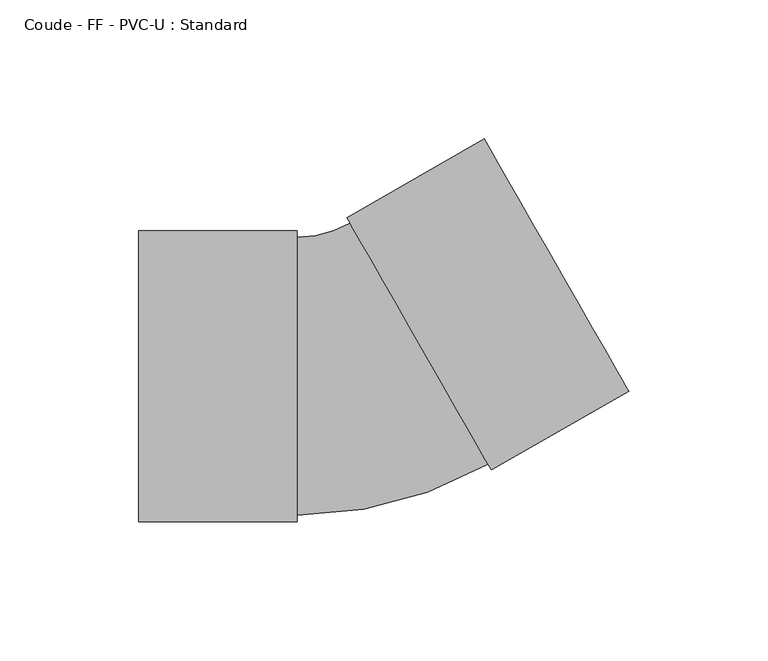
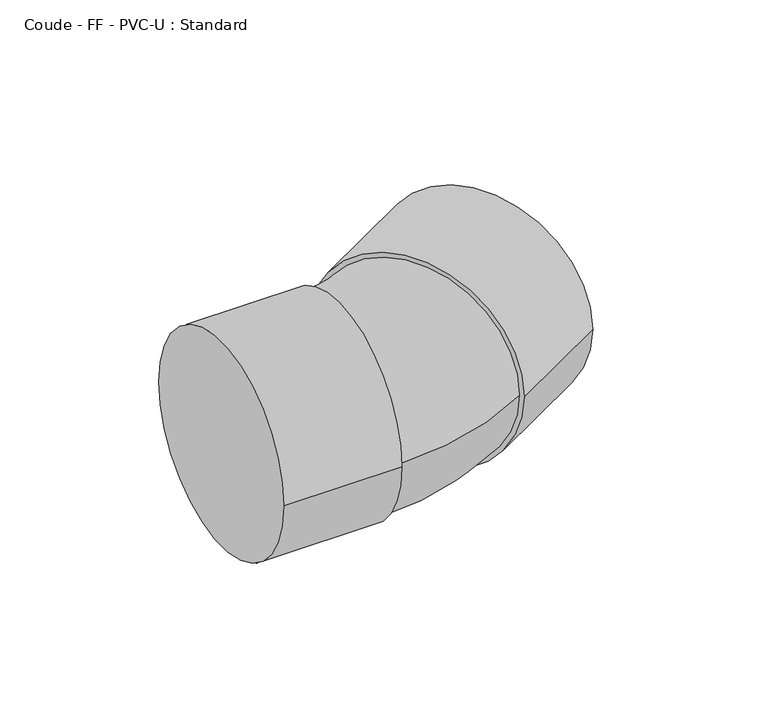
"""IFC4 building model written with IfcOpenShell, lengths in millimetres: pipe fitting geometry, Coude - FF - PVC-U : Standard."""

from ifc_helpers import new_model, si_unit, point, frame, origin, place, context, project, spatial, circle_curve, ellipse_curve, trimmed, source, transform, mapped, element, save
from ifc_brep_helpers import plane_surface, cylinder_surface, revolved_surface, advanced_brep


def coude_ff_pvc_u_standard_b7df5823(model_context):
    return source(origin(), model_context, "Body", "AdvancedBrep", [
        advanced_brep(
        [(-80.5, -52.3, 0.0), (-80.5, 52.3, 0.0), (-23.5, -52.3, 0.0), (-23.5, 52.3, 0.0), (-23.5, -50.0, 0.0), (-23.5, 50.0, 0.0), (-4.4553988, 55.0672264, 0.0), (45.2407191, -31.7100509, 0.0), (46.3837299, -33.7059283, 0.0), (-5.5984095, 57.0631038, 0.0), (95.8467779, -5.3791411, 0.0), (43.8646386, 85.389891, 0.0)],
        [
            (0, 1, circle_curve(frame((-80.5, 0.0, 0.0), z_axis=(-1.0, 0.0, 0.0), x_axis=(0.0, 1.0, 0.0)), 52.3)),
            (1, 0, circle_curve(frame((-80.5, 0.0, 0.0), z_axis=(-1.0, 0.0, 0.0), x_axis=(0.0, 1.0, 0.0)), 52.3)),
            (2, 3, circle_curve(frame((-23.5, 0.0, 0.0), z_axis=(1.0, 0.0, 0.0), x_axis=(0.0, 1.0, 0.0)), 52.3)),
            (3, 2, circle_curve(frame((-23.5, 0.0, 0.0), z_axis=(1.0, 0.0, 0.0), x_axis=(0.0, 1.0, 0.0)), 52.3)),
            (4, 5, circle_curve(frame((-23.5, 0.0, 0.0), z_axis=(-1.0, 0.0, 0.0), x_axis=(0.0, 1.0, 0.0)), 50.0)),
            (5, 4, circle_curve(frame((-23.5, 0.0, 0.0), z_axis=(-1.0, 0.0, 0.0), x_axis=(0.0, 1.0, 0.0)), 50.0)),
            (0, 2),
            (3, 1),
            (6, 5, circle_curve(frame((-23.5, 88.3221104, 0.0), z_axis=(0.0, 0.0, -1.0), x_axis=(0.0, -1.0, 0.0)), 38.3221104)),
            (4, 7, circle_curve(frame((-23.5, 88.3221104, 0.0), z_axis=(0.0, 0.0, 1.0), x_axis=(0.0, -1.0, 0.0)), 138.3221104)),
            (7, 6, circle_curve(frame((20.3926602, 11.6785877, 0.0), z_axis=(-0.8677727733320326, -0.49696117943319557, 0.0), x_axis=(-0.49696117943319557, 0.8677727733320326, 0.0)), 50.0)),
            (6, 7, circle_curve(frame((20.3926602, 11.6785877, 0.0), z_axis=(-0.8677727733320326, -0.49696117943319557, 0.0), x_axis=(-0.49696117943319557, 0.8677727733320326, 0.0)), 50.0)),
            (8, 9, circle_curve(frame((20.3926602, 11.6785877, 0.0), z_axis=(-0.8677727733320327, -0.49696117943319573, 0.0), x_axis=(-0.4969611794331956, 0.8677727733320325, 0.0)), 52.3)),
            (9, 8, circle_curve(frame((20.3926602, 11.6785877, 0.0), z_axis=(-0.8677727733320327, -0.49696117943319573, 0.0), x_axis=(-0.4969611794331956, 0.8677727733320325, 0.0)), 52.3)),
            (10, 11, circle_curve(frame((69.8557083, 40.0053749, 0.0), z_axis=(0.8677727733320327, 0.49696117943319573, 0.0), x_axis=(-0.4969611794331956, 0.8677727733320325, 0.0)), 52.3)),
            (11, 10, circle_curve(frame((69.8557083, 40.0053749, 0.0), z_axis=(0.8677727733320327, 0.49696117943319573, 0.0), x_axis=(-0.4969611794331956, 0.8677727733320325, 0.0)), 52.3)),
            (8, 10),
            (11, 9),
        ],
        [
            plane_surface(frame((-80.5, 0.0, 0.0), z_axis=(-1.0, 0.0, 0.0), x_axis=(0.0, 0.0, 1.0))),
            plane_surface(frame((-23.5, 0.0, 0.0), z_axis=(1.0, 0.0, 0.0), x_axis=(0.0, 0.0, 1.0))),
            cylinder_surface(frame((-80.5, 0.0, 0.0), z_axis=(-1.0, 0.0, 0.0), x_axis=(0.0, 1.0, 0.0)), 52.3),
            revolved_surface(trimmed(ellipse_curve(frame((-23.5, 0.0, 0.0), z_axis=(-1.0, 0.0, 0.0), x_axis=(0.0, 1.0, 0.0)), 50.0, 50.0), [point((-23.5, -50.0, 0.0))], [point((-23.5, 50.0, 0.0))], True, "CARTESIAN"), (-23.5, 88.3221104, 0.0), (0.0, 0.0, 1.0)),
            revolved_surface(trimmed(ellipse_curve(frame((-23.5, 0.0, 0.0), z_axis=(-1.0, 0.0, 0.0), x_axis=(0.0, 1.0, 0.0)), 50.0, 50.0), [point((-23.5, 50.0, 0.0))], [point((-23.5, -50.0, 0.0))], True, "CARTESIAN"), (-23.5, 88.3221104, 0.0), (0.0, 0.0, 1.0)),
            plane_surface(frame((20.3926602, 11.6785877, 0.0), z_axis=(-0.8677727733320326, -0.49696117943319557, 0.0), x_axis=(0.0, 0.0, 1.0))),
            plane_surface(frame((69.8557083, 40.0053749, 0.0), z_axis=(0.8677727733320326, 0.49696117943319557, 0.0), x_axis=(0.0, 0.0, 1.0))),
            cylinder_surface(frame((20.3926602, 11.6785877, 0.0), z_axis=(-0.8677727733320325, -0.4969611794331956, 0.0), x_axis=(-0.4969611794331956, 0.8677727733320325, 0.0)), 52.3),
        ],
        [
            (0, [[1, 2]]),
            (1, [[3, 4], [5, 6]]),
            (2, [[-1, 7, -4, 8]]),
            (2, [[-2, -8, -3, -7]]),
            (3, [[9, -5, 10, 11]]),
            (4, [[-9, 12, -10, -6]]),
            (5, [[13, 14], [-11, -12]]),
            (6, [[15, 16]]),
            (7, [[-13, 17, -16, 18]]),
            (7, [[-14, -18, -15, -17]]),
        ],
    ),
    ])


if __name__ == "__main__":
    model = new_model("IFC4")
    model_context = context("Model", 3, world=origin())
    ifc_project = project(units=[si_unit("LENGTHUNIT", "METRE", prefix="MILLI")], contexts=[model_context])
    site = spatial("IfcSite", under=ifc_project)
    building = spatial("IfcBuilding", under=site)
    placement = place(None, origin())
    coude_ff_pvc_u_standard_shape = coude_ff_pvc_u_standard_b7df5823(model_context)
    element("IfcPipeFitting", 1, ObjectType="Coude - FF - PVC-U : Standard", at=placement, inside=building, context=model_context, shape_type="MappedRepresentation", body=[
        mapped(coude_ff_pvc_u_standard_shape, transform((0.0, 0.0, 0.0), x_axis=(1.0, 0.0, 0.0), y_axis=(0.0, 1.0, 0.0), z_axis=(0.0, 0.0, 1.0))),
    ])
    save(model, "model.ifc")
